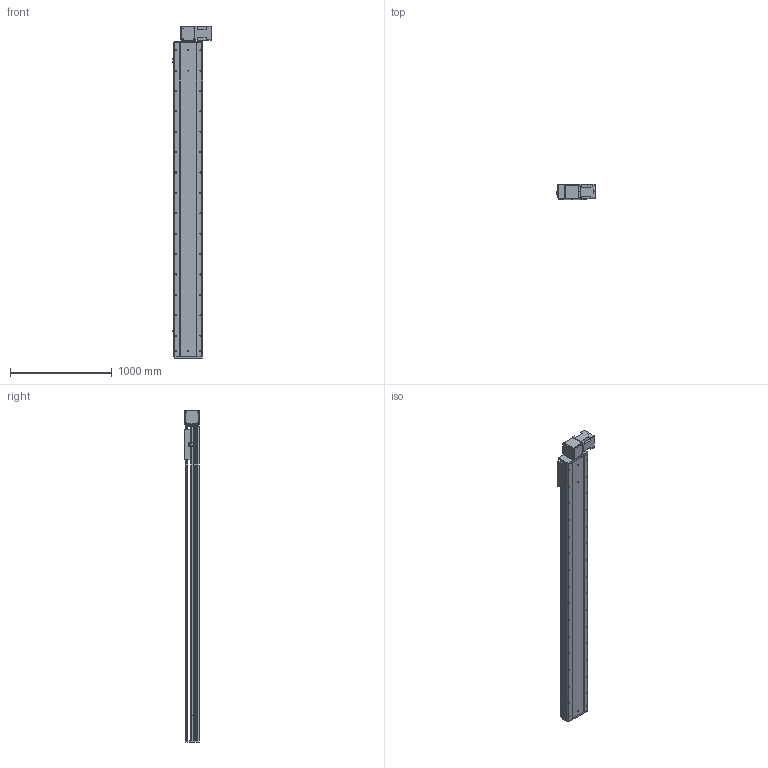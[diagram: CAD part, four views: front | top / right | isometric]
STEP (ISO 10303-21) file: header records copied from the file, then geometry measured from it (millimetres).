
FILE_DESCRIPTION (( 'STEP AP214' ), '1' );
FILE_NAME ('RTB28S-XX-2650-BL-M100-XX-C4.STEP', '2025-12-22T02:34:42', ( '' ), ( '' ), 'SwSTEP 2.0', 'SolidWorks 2018', '' );
FILE_SCHEMA (( 'AUTOMOTIVE_DESIGN' ));
Length unit declared in the file: millimetre
Products named in the file (4): RTB28S-XX-2650-BL-M100-XX-C4; RTB28S-GY-008^RTB28S-XX-XX-BL-M100-XX-C4; RTB28S-GY-004^RTB28S-XX-XX-BL-M100-XX-C4; RTB28S-GY-011^RTB28S-XX-XX-BL-M100-XX-C4
Assembly tree (3 placements, depth 2):
  RTB28S-XX-2650-BL-M100-XX-C4
    RTB28S-GY-011^RTB28S-XX-XX-BL-M100-XX-C4
    RTB28S-GY-004^RTB28S-XX-XX-BL-M100-XX-C4
    RTB28S-GY-008^RTB28S-XX-XX-BL-M100-XX-C4
Bounding box: 380.7 x 145 x 3257 mm (x, y, z)
Volume: 55600304.5 mm3; surface area: 5205811 mm2
Topology: 3 solids, 4 shells, 868 faces, 2328 edges, 1488 vertices
Faces by surface type: cylinder 423, plane 361, cone 80, torus 4
Entity records: 33401 total; most frequent: CARTESIAN_POINT 6202, DIRECTION 4950, ORIENTED_EDGE 4592, EDGE_CURVE 2296, AXIS2_PLACEMENT_3D 1820, VERTEX_POINT 1488, VECTOR 1310, LINE 1310
